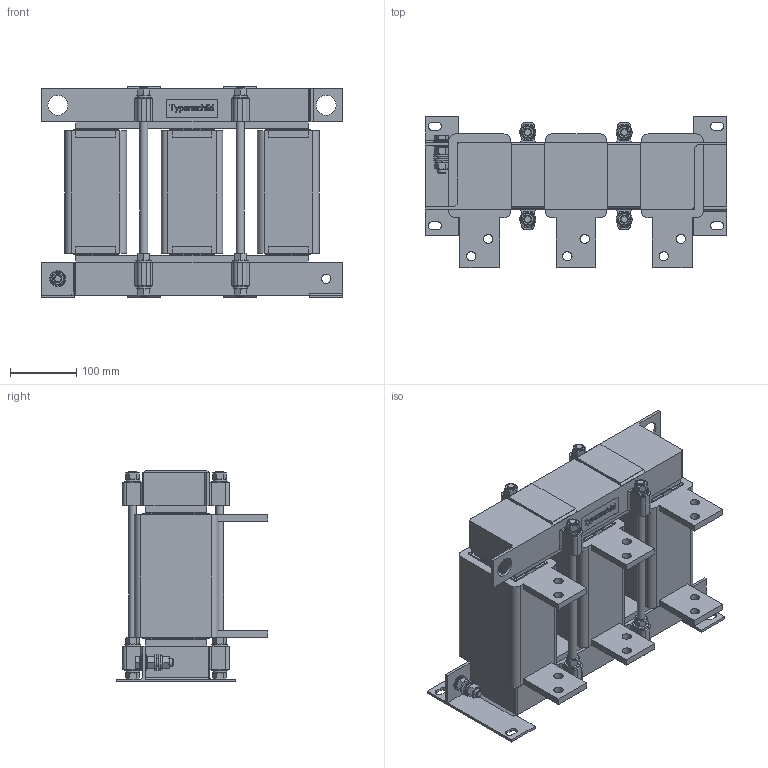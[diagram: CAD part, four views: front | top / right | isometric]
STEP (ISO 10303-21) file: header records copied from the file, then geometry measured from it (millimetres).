
FILE_DESCRIPTION((''),'2;1');
FILE_NAME('C:\Users\fp1\CAD-Daten\DDK\DDK12,5 905.stp','2014-06-26T10:53:11',('FP1'),(''),'Autodesk Inventor 2013','Autodesk Inventor 2013','');
FILE_SCHEMA(('AUTOMOTIVE_DESIGN { 1 0 10303 214 1 1 1 1 }'));
Length unit declared in the file: millimetre
Products named in the file (1): Bauteil36
Bounding box: 454 x 228 x 319 mm (x, y, z)
Volume: 11191088.6 mm3; surface area: 1074149.4 mm2
Topology: 4 solids, 4 shells, 2227 faces, 6558 edges, 4209 vertices
Faces by surface type: plane 1944, cylinder 168, bspline 68, cone 47
Full cylindrical faces by diameter (mm): 12 x18, 13 x14, 14 x13, 16.63 x1, 24 x14, 30 x2
Entity records: 71854 total; most frequent: CARTESIAN_POINT 16146, ORIENTED_EDGE 12830, DIRECTION 10286, EDGE_CURVE 6415, VECTOR 4312, LINE 4312, VERTEX_POINT 4169, AXIS2_PLACEMENT_3D 2987
